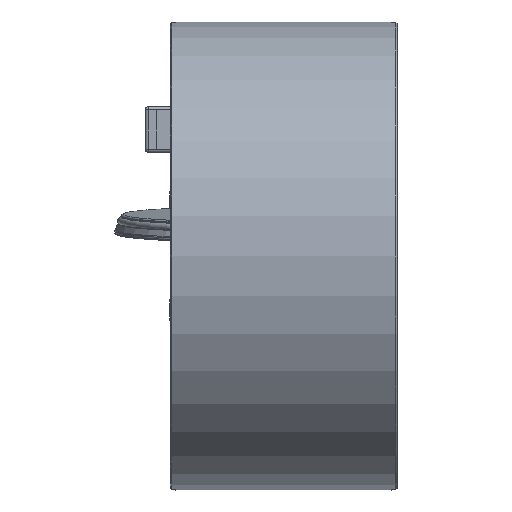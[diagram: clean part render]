
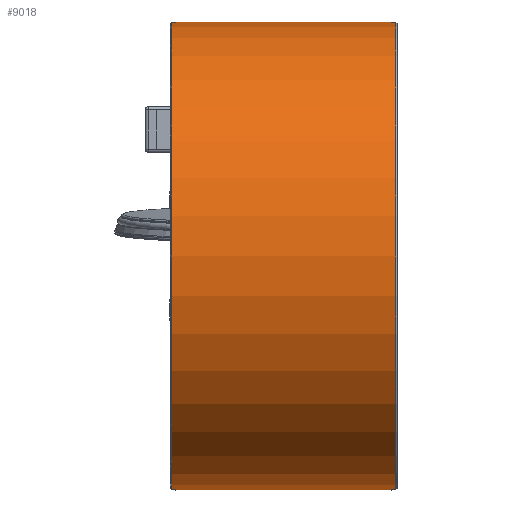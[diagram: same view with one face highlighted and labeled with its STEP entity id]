
A CAD part, left-side view. The second image highlights one B-rep face of the part: STEP entity #9018.
In plain terms, the highlighted cylindrical face has radius 82.5 mm (diameter 165 mm), a full revolution.
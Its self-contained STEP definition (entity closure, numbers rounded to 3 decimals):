
#6636=CYLINDRICAL_SURFACE('',#25313,82.5);
#6997=FACE_BOUND('',#11581,.T.);
#6998=FACE_BOUND('',#11582,.T.);
#6999=FACE_BOUND('',#11583,.T.);
#8111=CIRCLE('',#25303,82.5);
#8112=CIRCLE('',#25304,82.5);
#8113=CIRCLE('',#25305,82.5);
#8114=CIRCLE('',#25306,82.5);
#8115=CIRCLE('',#25307,82.5);
#8116=CIRCLE('',#25308,82.5);
#8117=CIRCLE('',#25309,82.5);
#8118=CIRCLE('',#25310,82.5);
#8119=CIRCLE('',#25311,82.5);
#8120=CIRCLE('',#25312,82.5);
#9018=ADVANCED_FACE('',(#6997,#6998,#6999),#6636,.T.);
#11581=EDGE_LOOP('',(#13425,#13426,#13427,#13428));
#11582=EDGE_LOOP('',(#13429,#13430,#13431,#13432,#13433,#13434,#13435,#13436));
#11583=EDGE_LOOP('',(#13437,#13438,#13439,#13440,#13441,#13442,#13443,#13444));
#13425=ORIENTED_EDGE('',*,*,#20149,.F.);
#13426=ORIENTED_EDGE('',*,*,#20150,.F.);
#13427=ORIENTED_EDGE('',*,*,#20151,.F.);
#13428=ORIENTED_EDGE('',*,*,#20152,.F.);
#13429=ORIENTED_EDGE('',*,*,#20153,.T.);
#13430=ORIENTED_EDGE('',*,*,#20154,.T.);
#13431=ORIENTED_EDGE('',*,*,#20155,.F.);
#13432=ORIENTED_EDGE('',*,*,#20156,.T.);
#13433=ORIENTED_EDGE('',*,*,#20157,.T.);
#13434=ORIENTED_EDGE('',*,*,#20158,.F.);
#13435=ORIENTED_EDGE('',*,*,#20159,.T.);
#13436=ORIENTED_EDGE('',*,*,#20160,.F.);
#13437=ORIENTED_EDGE('',*,*,#20161,.T.);
#13438=ORIENTED_EDGE('',*,*,#20162,.T.);
#13439=ORIENTED_EDGE('',*,*,#20163,.F.);
#13440=ORIENTED_EDGE('',*,*,#20164,.F.);
#13441=ORIENTED_EDGE('',*,*,#20165,.T.);
#13442=ORIENTED_EDGE('',*,*,#20166,.T.);
#13443=ORIENTED_EDGE('',*,*,#20167,.F.);
#13444=ORIENTED_EDGE('',*,*,#20168,.F.);
#18272=VERTEX_POINT('',#33066);
#18273=VERTEX_POINT('',#33067);
#18274=VERTEX_POINT('',#33069);
#18275=VERTEX_POINT('',#33071);
#18276=VERTEX_POINT('',#33074);
#18277=VERTEX_POINT('',#33075);
#18278=VERTEX_POINT('',#33077);
#18279=VERTEX_POINT('',#33079);
#18280=VERTEX_POINT('',#33081);
#18281=VERTEX_POINT('',#33083);
#18282=VERTEX_POINT('',#33085);
#18283=VERTEX_POINT('',#33087);
#18284=VERTEX_POINT('',#33090);
#18285=VERTEX_POINT('',#33091);
#18286=VERTEX_POINT('',#33093);
#18287=VERTEX_POINT('',#33095);
#18288=VERTEX_POINT('',#33097);
#18289=VERTEX_POINT('',#33099);
#18290=VERTEX_POINT('',#33101);
#18291=VERTEX_POINT('',#33103);
#20149=EDGE_CURVE('',#18272,#18273,#8111,.T.);
#20150=EDGE_CURVE('',#18274,#18272,#22595,.T.);
#20151=EDGE_CURVE('',#18275,#18274,#8112,.T.);
#20152=EDGE_CURVE('',#18273,#18275,#22596,.T.);
#20153=EDGE_CURVE('',#18276,#18277,#8113,.T.);
#20154=EDGE_CURVE('',#18277,#18278,#22597,.T.);
#20155=EDGE_CURVE('',#18279,#18278,#8114,.T.);
#20156=EDGE_CURVE('',#18279,#18280,#22598,.T.);
#20157=EDGE_CURVE('',#18280,#18281,#8115,.T.);
#20158=EDGE_CURVE('',#18282,#18281,#22599,.T.);
#20159=EDGE_CURVE('',#18282,#18283,#8116,.T.);
#20160=EDGE_CURVE('',#18276,#18283,#22600,.T.);
#20161=EDGE_CURVE('',#18284,#18285,#8117,.T.);
#20162=EDGE_CURVE('',#18285,#18286,#22601,.T.);
#20163=EDGE_CURVE('',#18287,#18286,#8118,.T.);
#20164=EDGE_CURVE('',#18288,#18287,#22602,.T.);
#20165=EDGE_CURVE('',#18288,#18289,#8119,.T.);
#20166=EDGE_CURVE('',#18289,#18290,#22603,.T.);
#20167=EDGE_CURVE('',#18291,#18290,#8120,.T.);
#20168=EDGE_CURVE('',#18284,#18291,#22604,.T.);
#22595=LINE('',#33068,#23945);
#22596=LINE('',#33072,#23946);
#22597=LINE('',#33076,#23947);
#22598=LINE('',#33080,#23948);
#22599=LINE('',#33084,#23949);
#22600=LINE('',#33088,#23950);
#22601=LINE('',#33092,#23951);
#22602=LINE('',#33096,#23952);
#22603=LINE('',#33100,#23953);
#22604=LINE('',#33104,#23954);
#23945=VECTOR('',#27502,1.);
#23946=VECTOR('',#27505,1.);
#23947=VECTOR('',#27508,1.);
#23948=VECTOR('',#27511,1.);
#23949=VECTOR('',#27514,1.);
#23950=VECTOR('',#27517,1.);
#23951=VECTOR('',#27520,1.);
#23952=VECTOR('',#27523,1.);
#23953=VECTOR('',#27526,1.);
#23954=VECTOR('',#27529,1.);
#25303=AXIS2_PLACEMENT_3D('',#33065,#27500,#27501);
#25304=AXIS2_PLACEMENT_3D('',#33070,#27503,#27504);
#25305=AXIS2_PLACEMENT_3D('',#33073,#27506,#27507);
#25306=AXIS2_PLACEMENT_3D('',#33078,#27509,#27510);
#25307=AXIS2_PLACEMENT_3D('',#33082,#27512,#27513);
#25308=AXIS2_PLACEMENT_3D('',#33086,#27515,#27516);
#25309=AXIS2_PLACEMENT_3D('',#33089,#27518,#27519);
#25310=AXIS2_PLACEMENT_3D('',#33094,#27521,#27522);
#25311=AXIS2_PLACEMENT_3D('',#33098,#27524,#27525);
#25312=AXIS2_PLACEMENT_3D('',#33102,#27527,#27528);
#25313=AXIS2_PLACEMENT_3D('',#33105,#27530,#27531);
#27500=DIRECTION('',(-1.,0.,0.));
#27501=DIRECTION('',(0.,0.,-1.));
#27502=DIRECTION('',(1.,0.,0.));
#27503=DIRECTION('',(1.,0.,0.));
#27504=DIRECTION('',(0.,0.,1.));
#27505=DIRECTION('',(-1.,0.,0.));
#27506=DIRECTION('',(-1.,0.,0.));
#27507=DIRECTION('',(0.,0.,1.));
#27508=DIRECTION('',(-1.,0.,0.));
#27509=DIRECTION('',(1.,0.,0.));
#27510=DIRECTION('',(0.,0.,1.));
#27511=DIRECTION('',(1.,0.,0.));
#27512=DIRECTION('',(-1.,0.,0.));
#27513=DIRECTION('',(0.,0.,1.));
#27514=DIRECTION('',(1.,0.,0.));
#27515=DIRECTION('',(-1.,0.,0.));
#27516=DIRECTION('',(0.,0.,-1.));
#27517=DIRECTION('',(-1.,0.,0.));
#27518=DIRECTION('',(1.,0.,0.));
#27519=DIRECTION('',(0.,0.,1.));
#27520=DIRECTION('',(-1.,0.,0.));
#27521=DIRECTION('',(-1.,0.,0.));
#27522=DIRECTION('',(0.,0.,1.));
#27523=DIRECTION('',(-1.,0.,0.));
#27524=DIRECTION('',(1.,0.,0.));
#27525=DIRECTION('',(0.,0.,-1.));
#27526=DIRECTION('',(-1.,0.,0.));
#27527=DIRECTION('',(-1.,0.,0.));
#27528=DIRECTION('',(0.,0.,1.));
#27529=DIRECTION('',(-1.,0.,0.));
#27530=DIRECTION('',(-1.,0.,0.));
#27531=DIRECTION('',(0.,0.,1.));
#33065=CARTESIAN_POINT('',(68.038,0.,0.));
#33066=CARTESIAN_POINT('',(68.038,70.,43.661));
#33067=CARTESIAN_POINT('',(68.038,70.,-43.661));
#33068=CARTESIAN_POINT('',(0.,70.,43.661));
#33069=CARTESIAN_POINT('',(31.963,70.,43.661));
#33070=CARTESIAN_POINT('',(31.963,0.,0.));
#33071=CARTESIAN_POINT('',(31.963,70.,-43.661));
#33072=CARTESIAN_POINT('',(0.,70.,-43.661));
#33073=CARTESIAN_POINT('',(79.5,0.,0.));
#33074=CARTESIAN_POINT('',(79.5,3.,82.445));
#33075=CARTESIAN_POINT('',(79.5,3.,-82.445));
#33076=CARTESIAN_POINT('',(0.,3.,-82.445));
#33077=CARTESIAN_POINT('',(78.,3.,-82.445));
#33078=CARTESIAN_POINT('',(78.,0.,0.));
#33079=CARTESIAN_POINT('',(78.,-3.,-82.445));
#33080=CARTESIAN_POINT('',(0.,-3.,-82.445));
#33081=CARTESIAN_POINT('',(79.5,-3.,-82.445));
#33082=CARTESIAN_POINT('',(79.5,0.,0.));
#33083=CARTESIAN_POINT('',(79.5,-3.,82.445));
#33084=CARTESIAN_POINT('',(0.,-3.,82.445));
#33085=CARTESIAN_POINT('',(78.,-3.,82.445));
#33086=CARTESIAN_POINT('',(78.,0.,0.));
#33087=CARTESIAN_POINT('',(78.,3.,82.445));
#33088=CARTESIAN_POINT('',(0.,3.,82.445));
#33089=CARTESIAN_POINT('',(2.,0.,0.));
#33090=CARTESIAN_POINT('',(2.,-3.,-82.445));
#33091=CARTESIAN_POINT('',(2.,3.,-82.445));
#33092=CARTESIAN_POINT('',(2.,3.,-82.445));
#33093=CARTESIAN_POINT('',(0.5,3.,-82.445));
#33094=CARTESIAN_POINT('',(0.5,0.,0.));
#33095=CARTESIAN_POINT('',(0.5,3.,82.445));
#33096=CARTESIAN_POINT('',(2.,3.,82.445));
#33097=CARTESIAN_POINT('',(2.,3.,82.445));
#33098=CARTESIAN_POINT('',(2.,0.,0.));
#33099=CARTESIAN_POINT('',(2.,-3.,82.445));
#33100=CARTESIAN_POINT('',(2.,-3.,82.445));
#33101=CARTESIAN_POINT('',(0.5,-3.,82.445));
#33102=CARTESIAN_POINT('',(0.5,0.,0.));
#33103=CARTESIAN_POINT('',(0.5,-3.,-82.445));
#33104=CARTESIAN_POINT('',(2.,-3.,-82.445));
#33105=CARTESIAN_POINT('',(0.,0.,0.));
